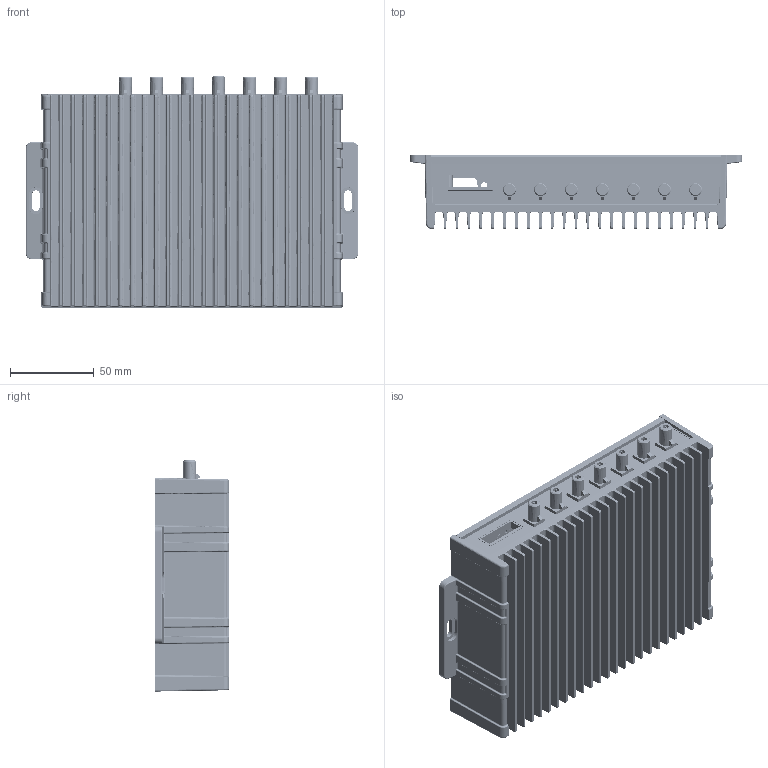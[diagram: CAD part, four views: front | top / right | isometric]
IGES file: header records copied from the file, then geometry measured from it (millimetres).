
Start section: SolidWorks IGES file using analytic representation for surfaces
Global section: file name: C:\Users\terei\Documents\1 LOCAL DRIVE PROJECT FILES (DO NOT DELETE)\8022 TX40 (COPY)\SENT FILES - TX40\2022.09.20 - TX40 REV 01\50002129-XX REV 01 TX40_5G ASSY\50002129-XX REV 01 TX40_5G ASSY-SPC\50002129-XX REV 01 TX40 5G ASSY.IGS; native system: SolidWorks 2022; preprocessor: SolidWorks 2022; author: terei; date: 220920.135444; units: millimetre
Bounding box: 198 x 44 x 137.87 mm (x, y, z)
Surface area: 288736.3 mm2 (no closed solid volume)
Topology: 0 solids, 0 shells, 4345 faces, 42160 edges, 42058 vertices
Faces by surface type: bspline 2301, revolution 2044
